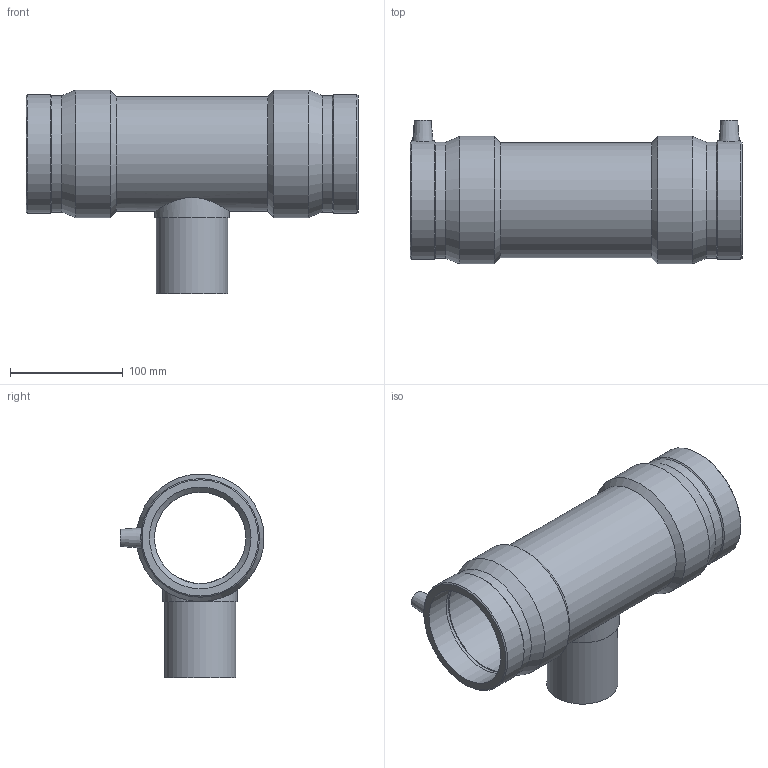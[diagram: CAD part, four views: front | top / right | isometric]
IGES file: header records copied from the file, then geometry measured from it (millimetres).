
Global section: file name: 491404090063.ipt; native system: Autodesk Inventor 2015; preprocessor: unknown; author: KIM; date: 20190909.112831; units: millimetre
Bounding box: 294 x 127.5 x 180.5 mm (x, y, z)
Volume: 959095.7 mm3; surface area: 211936.6 mm2
Topology: 1 solids, 1 shells, 45 faces, 101 edges, 66 vertices
Faces by surface type: plane 12, revolution 12, cylinder 11, cone 10
Full cylindrical faces by diameter (mm): 4 x2, 63 x1, 66.15 x1, 101.7 x1, 102.988 x2, 105.09 x2, 113 x2
